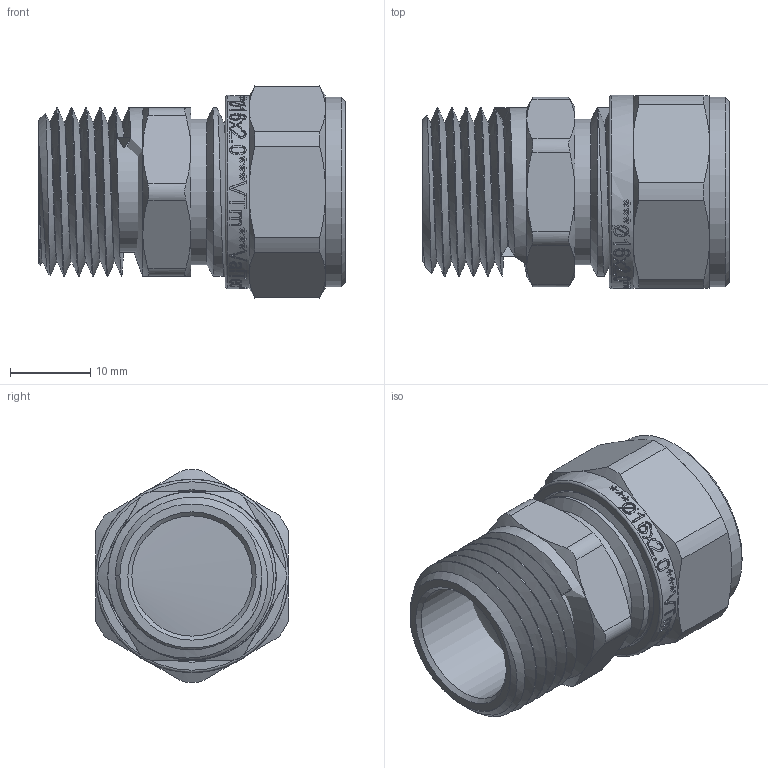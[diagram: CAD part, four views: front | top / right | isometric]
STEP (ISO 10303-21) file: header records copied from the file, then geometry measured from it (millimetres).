
FILE_DESCRIPTION(/* description */ (''),/* implementation_level */ '2;1');
FILE_NAME(/* name */ 'E:\Артём\00000\Работа удаленка\Обжимные фитинги\VTm.301.N.001604.stp',/* time_stamp */ '2020-05-20T16:09:10+03:00',/* author */ ('BeN_GaN'),/* organization */ (''),/* preprocessor_version */ 'ST-DEVELOPER v18',/* originating_system */ 'Autodesk Inventor 2020',/* authorisation */ '');
FILE_SCHEMA (('AUTOMOTIVE_DESIGN { 1 0 10303 214 3 1 1 }'));
Length unit declared in the file: millimetre
Products named in the file (1): VTm.301.N.001604
Bounding box: 38.27 x 24.12 x 26.51 mm (x, y, z)
Volume: 8481.1 mm3; surface area: 8505.8 mm2
Topology: 1 solids, 1 shells, 685 faces, 1920 edges, 1289 vertices
Faces by surface type: bspline 340, plane 189, cylinder 94, cone 37, torus 25
Full cylindrical faces by diameter (mm): 8 x1, 9.4 x2, 11.75 x4, 15 x1, 16.124 x4, 16.2 x1, 16.724 x5, 17.124 x1, 17.4 x7, 18.2 x1, 18.724 x1, 21 x9, 23.624 x1, 24.124 x1
Entity records: 29821 total; most frequent: CARTESIAN_POINT 14388, ORIENTED_EDGE 3842, DIRECTION 2145, EDGE_CURVE 1921, VERTEX_POINT 1290, LINE 777, VECTOR 777, B_SPLINE_CURVE_WITH_KNOTS 758
